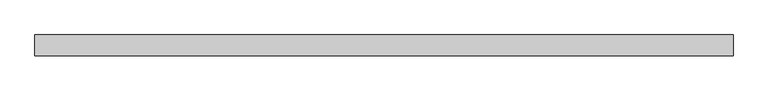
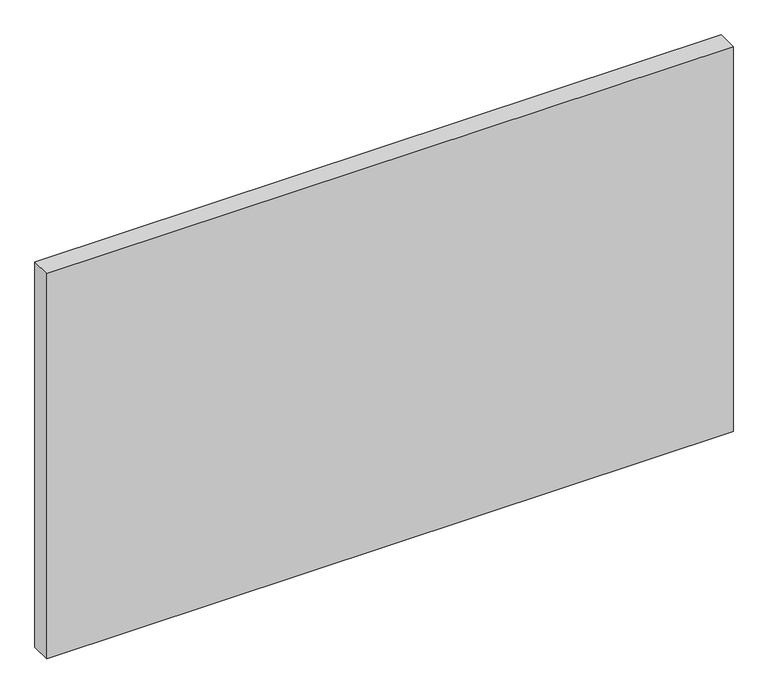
"""IFC4 building model written with IfcOpenShell, lengths in millimetres: plate geometry, Vitré."""

import ifcopenshell
import ifcopenshell.guid

model = None  # the IFC model being written
_history = None  # IfcOwnerHistory: only IFC2X3 demands one
_inside = {}  # id of a spatial element -> (the spatial element, [elements in it])
_under = {}  # id of a project, library or spatial element -> (it, [spatial elements below it])
_declared = {}  # id of a project -> (the project, [libraries it declares])
_typed = {}  # id of a type object -> (the type object, [elements of that type])
_made_of = {}  # id of a material, layer set ... -> (it, [elements and type objects made of it])


def new_model(schema):
    """Start an empty IFC model of exactly this schema.

    Asked for "IFC4X3", IfcOpenShell would pick the latest addendum, in which some entities
    have other attributes; the version numbers below select the first issue.
    IFC2X3 requires an IfcOwnerHistory on every rooted entity: one is made here for all.
    """
    global model, _history
    if schema == "IFC4X3":
        model = ifcopenshell.file(schema_version=(4, 3, 0, 0))
    else:
        model = ifcopenshell.file(schema=schema)
    _inside.clear()
    _under.clear()
    _declared.clear()
    _typed.clear()
    _made_of.clear()
    _history = None
    if model.schema == "IFC2X3":
        org = make("IfcOrganization", Name="unknown")
        user = make(
            "IfcPersonAndOrganization",
            ThePerson=make("IfcPerson", FamilyName="unknown"),
            TheOrganization=org,
        )
        app = make(
            "IfcApplication",
            ApplicationDeveloper=org,
            Version="unknown",
            ApplicationFullName="unknown",
            ApplicationIdentifier="unknown",
        )
        _history = make(
            "IfcOwnerHistory",
            OwningUser=user,
            OwningApplication=app,
            ChangeAction="ADDED",
            CreationDate=0,
        )
    return model


def make(cls, **values):
    """One entity of the class cls with the attributes given. An attribute that is None is left unset."""
    return model.create_entity(
        cls, **{name: value for name, value in values.items() if value is not None}
    )


def rooted(cls, **values):
    """An entity with a GlobalId (a new one), such as an element, a storey or a relation."""
    return make(cls, GlobalId=ifcopenshell.guid.new(), OwnerHistory=_history, **values)


def si_unit(unit_type, name, prefix=None):
    """IfcSIUnit, for example si_unit("LENGTHUNIT", "METRE", prefix="MILLI")."""
    return make("IfcSIUnit", UnitType=unit_type, Prefix=prefix, Name=name)


def assignment(units):
    """IfcUnitAssignment: the units of a project."""
    return None if units is None else make("IfcUnitAssignment", Units=units)


def point(xyz):
    """IfcCartesianPoint."""
    return None if xyz is None else make("IfcCartesianPoint", Coordinates=xyz)


def direction(xyz):
    """IfcDirection."""
    return None if xyz is None else make("IfcDirection", DirectionRatios=xyz)


def frame(location, z_axis=None, x_axis=None):
    """IfcAxis2Placement3D, a coordinate frame: its origin and axes. An axis left out is left unset."""
    return make(
        "IfcAxis2Placement3D",
        Location=point(location),
        Axis=direction(z_axis),
        RefDirection=direction(x_axis),
    )


def origin():
    """The frame at (0, 0, 0) with its axes left unset."""
    return frame((0.0, 0.0, 0.0))


def origin_with_axes():
    """The frame at (0, 0, 0) with the z axis (0, 0, 1) and the x axis (1, 0, 0) written out."""
    return frame((0.0, 0.0, 0.0), z_axis=(0.0, 0.0, 1.0), x_axis=(1.0, 0.0, 0.0))


def place(relative_to, where):
    """IfcLocalPlacement: puts the frame where relative to a parent placement (None: the world)."""
    return make(
        "IfcLocalPlacement", PlacementRelTo=relative_to, RelativePlacement=where
    )


def context(
    kind, dimensions, precision=None, world=None, true_north=None, identifier=None
):
    """IfcGeometricRepresentationContext, for example the 3D "Model" context."""
    return make(
        "IfcGeometricRepresentationContext",
        ContextIdentifier=identifier,
        ContextType=kind,
        CoordinateSpaceDimension=dimensions,
        Precision=precision,
        WorldCoordinateSystem=world,
        TrueNorth=true_north,
    )


def project(units=None, contexts=None):
    """IfcProject with its units and contexts."""
    return rooted(
        "IfcProject",
        Name="project",
        RepresentationContexts=contexts,
        UnitsInContext=assignment(units),
    )


def spatial(cls, under=None, at=None, **own):
    """A site, building, storey or space (cls), placed at a placement, below another one or the project."""
    s = rooted(cls, ObjectPlacement=at, **own)
    if under is not None:
        _under.setdefault(under.id(), (under, []))[1].append(s)
    return s


def polyline(points):
    """IfcPolyline through the points."""
    return make("IfcPolyline", Points=[point(p) for p in points])


def outline(outer, holes=None, kind="AREA"):
    """IfcArbitraryClosedProfileDef: a profile drawn as a closed curve; with holes, ...WithVoids."""
    if holes is None:
        return make("IfcArbitraryClosedProfileDef", ProfileType=kind, OuterCurve=outer)
    return make(
        "IfcArbitraryProfileDefWithVoids",
        ProfileType=kind,
        OuterCurve=outer,
        InnerCurves=holes,
    )


def extrude(swept, where, along, depth):
    """IfcExtrudedAreaSolid: the profile swept, set in the frame where, extruded along a direction by depth."""
    return make(
        "IfcExtrudedAreaSolid",
        SweptArea=swept,
        Position=where,
        ExtrudedDirection=direction(along),
        Depth=depth,
    )


def shape(context_of_items, identifier, shape_type, items):
    """IfcShapeRepresentation: the items that make up one representation, for example the "Body"."""
    return make(
        "IfcShapeRepresentation",
        ContextOfItems=context_of_items,
        RepresentationIdentifier=identifier,
        RepresentationType=shape_type,
        Items=items,
    )


def source(mapping_origin, context_of_items, identifier, shape_type, items):
    """IfcRepresentationMap: a shape defined once, which mapped items show again and again."""
    return make(
        "IfcRepresentationMap",
        MappingOrigin=mapping_origin,
        MappedRepresentation=shape(context_of_items, identifier, shape_type, items),
    )


def transform(
    local_origin,
    x_axis=None,
    y_axis=None,
    z_axis=None,
    scale=None,
    scale2=None,
    scale3=None,
    uniform=True,
):
    """IfcCartesianTransformationOperator3D, or its non-uniform kind. x_axis, y_axis, z_axis: its Axis1, 2, 3."""
    if uniform:
        return make(
            "IfcCartesianTransformationOperator3D",
            Axis1=direction(x_axis),
            Axis2=direction(y_axis),
            LocalOrigin=point(local_origin),
            Scale=scale,
            Axis3=direction(z_axis),
        )
    return make(
        "IfcCartesianTransformationOperator3DnonUniform",
        Axis1=direction(x_axis),
        Axis2=direction(y_axis),
        LocalOrigin=point(local_origin),
        Scale=scale,
        Axis3=direction(z_axis),
        Scale2=scale2,
        Scale3=scale3,
    )


def mapped(mapping_source, mapping_target):
    """IfcMappedItem: shows the shape of a source again, moved by a transform."""
    return make(
        "IfcMappedItem", MappingSource=mapping_source, MappingTarget=mapping_target
    )


def made_of(thing, what):
    """Note that an element or type object is made of a material, layer set ...; save() writes the relation."""
    if what is not None:
        _made_of.setdefault(what.id(), (what, []))[1].append(thing)
    return thing


def element(
    cls,
    number,
    at=None,
    inside=None,
    cuts=None,
    type_object=None,
    material=None,
    context=None,
    identifier="Body",
    shape_type=None,
    held_by="IfcProductDefinitionShape",
    body=None,
    shapes=None,
    **own,
):
    """One element of the class cls, such as IfcWall. Its Tag is "e" and its number.

    at: its placement. inside: the storey or other place that contains it. cuts: it is an
    opening in that element (IfcRelVoidsElement). A single representation is given by context,
    identifier, shape_type and body (its items); several are given by shapes. held_by: the class
    of the entity that holds the representations. save() writes the other relations.
    """
    e = rooted(cls, Tag="e%d" % number, ObjectPlacement=at, **own)
    if body is not None:
        shapes = [shape(context, identifier, shape_type, body)]
    if shapes is not None:
        e.Representation = make(held_by, Representations=shapes)
    if inside is not None:
        _inside.setdefault(inside.id(), (inside, []))[1].append(e)
    if cuts is not None:
        rooted(
            "IfcRelVoidsElement", RelatingBuildingElement=cuts, RelatedOpeningElement=e
        )
    if type_object is not None:
        _typed.setdefault(type_object.id(), (type_object, []))[1].append(e)
    return made_of(e, material)


def aggregate(whole, parts):
    """IfcRelAggregates: a whole, such as a stair, and the parts it consists of."""
    return rooted("IfcRelAggregates", RelatingObject=whole, RelatedObjects=parts)


def save(model, path):
    """Write the relations noted so far, then the file.

    IfcRelAggregates (storeys below a building ...), IfcRelContainedInSpatialStructure (elements
    in a storey), IfcRelDefinesByType, IfcRelAssociatesMaterial and IfcRelDeclares: one each for
    every whole, place, type object, material and project.
    """
    for whole, parts in _under.values():
        aggregate(whole, parts)
    for where, things in _inside.values():
        rooted(
            "IfcRelContainedInSpatialStructure",
            RelatedElements=things,
            RelatingStructure=where,
        )
    for kind, things in _typed.values():
        rooted("IfcRelDefinesByType", RelatedObjects=things, RelatingType=kind)
    for what, things in _made_of.values():
        rooted("IfcRelAssociatesMaterial", RelatedObjects=things, RelatingMaterial=what)
    for by, libraries in _declared.values():
        rooted("IfcRelDeclares", RelatingContext=by, RelatedDefinitions=libraries)
    model.write(path)


def plate_20e3318a(model_context):
    return source(origin(), model_context, "Body", "SweptSolid", [
        extrude(outline(polyline([(-675.0, -20.0), (-675.0, 20.0), (675.0, 20.0), (675.0, -20.0), (-675.0, -20.0)])), origin_with_axes(), (0.0, 0.0, 1.0), 801.2351114),
    ])


if __name__ == "__main__":
    model = new_model("IFC4")
    model_context = context("Model", 3, world=origin())
    ifc_project = project(units=[si_unit("LENGTHUNIT", "METRE", prefix="MILLI")], contexts=[model_context])
    site = spatial("IfcSite", under=ifc_project)
    building = spatial("IfcBuilding", under=site)
    placement = place(None, origin())
    plate_shape = plate_20e3318a(model_context)
    element("IfcPlate", 1, ObjectType="Vitré", at=placement, inside=building, context=model_context, shape_type="MappedRepresentation", body=[
        mapped(plate_shape, transform((0.0, 0.0, 0.0), x_axis=(1.0, 0.0, 0.0), y_axis=(0.0, 1.0, 0.0), z_axis=(0.0, 0.0, 1.0))),
    ])
    save(model, "model.ifc")
